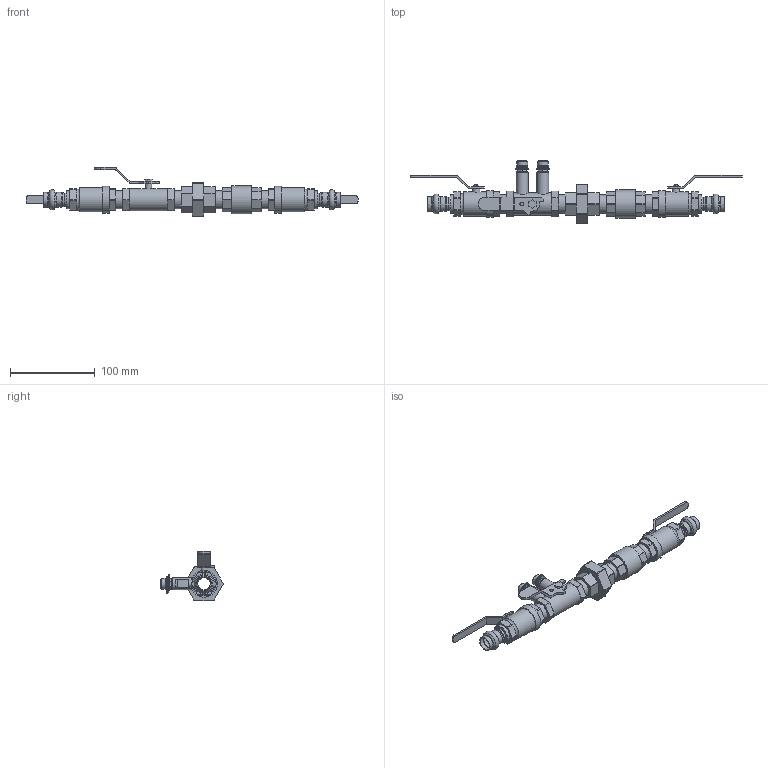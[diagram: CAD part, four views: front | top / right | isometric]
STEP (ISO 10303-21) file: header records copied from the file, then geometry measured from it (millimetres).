
FILE_DESCRIPTION(/* description */ ('VIC DOMESTIC WATER KIT FOR HYDRONIC BALANCING SERIES 7WB (CPF)','CAx-IF Rec.Pracs.---Representation and Presentation of Product Manufacturing Information (PMI)---4.0---2014-10-13'),/* implementation_level */ '2;1');
FILE_NAME(/* name */ 'C:\Users\Vjadhav\AppData\Roaming\Autodesk\ApplicationPlugins\Victaulic.Temp\A168\Victaulic_Domestic Water Kit for Hydronic Balancing_Series 7WB (CPF)_PRS_0.5 (15).stp',/* time_stamp */ '2021-08-10T10:54:39+05:00',/* author */ ('Vjadhav'),/* organization */ ('Victaulic'),/* preprocessor_version */ 'ST-DEVELOPER v17.2',/* originating_system */ 'Autodesk Inventor 2019',/* authorisation */ '');
FILE_SCHEMA (('AP242_MANAGED_MODEL_BASED_3D_ENGINEERING_MIM_LF { 1 0 10303 442 1 1 4 }'));
Length unit declared in the file: inch
Products named in the file (7): 7WB_PRS-0.5; Union_BR_386-0.5; 78BL-0.5; Check_Valve_4133-0.5; Nipple_BR_386_Prs-0.5; 722L_Prs-0.5; P596-0.5x0.5
Assembly tree (11 placements, depth 2):
  7WB_PRS-0.5
    Union_BR_386-0.5
    Nipple_BR_386_Prs-0.5  x4
    78BL-0.5
    722L_Prs-0.5  x2
    P596-0.5x0.5  x2
    Check_Valve_4133-0.5
Bounding box: 390.65 x 73.61 x 57.91 mm (x, y, z)
Volume: 145649.6 mm3; surface area: 85253.3 mm2
Topology: 13 solids, 13 shells, 466 faces, 1270 edges, 863 vertices
Faces by surface type: plane 305, cylinder 125, torus 22, cone 14
Full cylindrical faces by diameter (mm): 3.81 x2, 4.318 x1, 7.62 x1, 8.763 x2, 12.7 x2, 13.97 x2, 14.453 x2, 15.138 x2, 15.799 x6, 15.875 x6, 15.9 x4, 16.256 x1, 17.297 x4, 21.336 x16, 26.086 x1, 28.567 x2, 31.496 x2, 33.02 x1
Entity records: 12193 total; most frequent: CARTESIAN_POINT 2186, DIRECTION 2033, ORIENTED_EDGE 1916, EDGE_CURVE 958, AXIS2_PLACEMENT_3D 719, VERTEX_POINT 642, LINE 595, VECTOR 595
